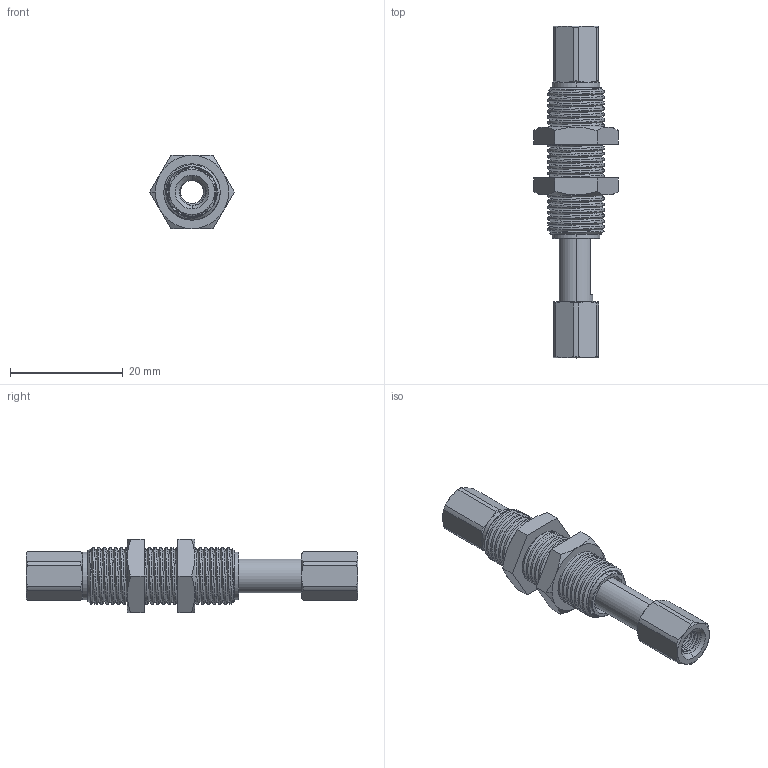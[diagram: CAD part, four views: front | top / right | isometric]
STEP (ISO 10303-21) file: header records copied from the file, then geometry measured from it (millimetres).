
FILE_DESCRIPTION (( 'STEP AP203' ), '1' );
FILE_NAME ('bln04-4bt10nk55-m5_asm〞〞TOC.STEP', '2024-10-17T03:19:00', ( '' ), ( '' ), 'SwSTEP 2.0', 'SolidWorks 2022', '' );
FILE_SCHEMA (( 'CONFIG_CONTROL_DESIGN' ));
Length unit declared in the file: millimetre
Products named in the file (1): bln04-4bt10nk55-m5_asm——TOC
Bounding box: 15.01 x 59 x 13 mm (x, y, z)
Surface area: 3257.9 mm2 (no closed solid volume)
Topology: 0 solids, 9 shells, 215 faces, 623 edges, 415 vertices
Faces by surface type: cylinder 78, cone 77, plane 38, bspline 22
Entity records: 15560 total; most frequent: CARTESIAN_POINT 10483, ORIENTED_EDGE 1103, DIRECTION 842, EDGE_CURVE 623, VERTEX_POINT 415, AXIS2_PLACEMENT_3D 342, B_SPLINE_CURVE_WITH_KNOTS 317, EDGE_LOOP 226
